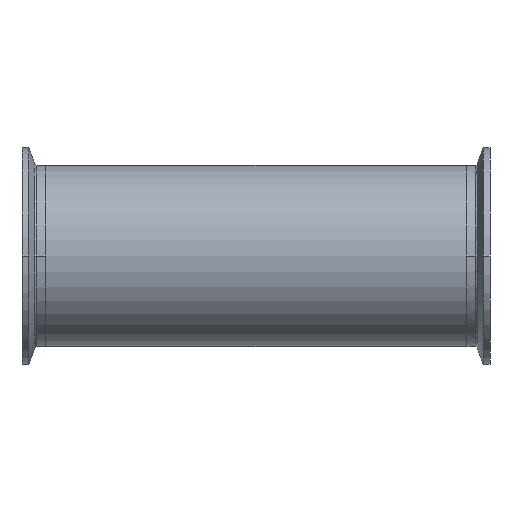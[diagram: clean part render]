
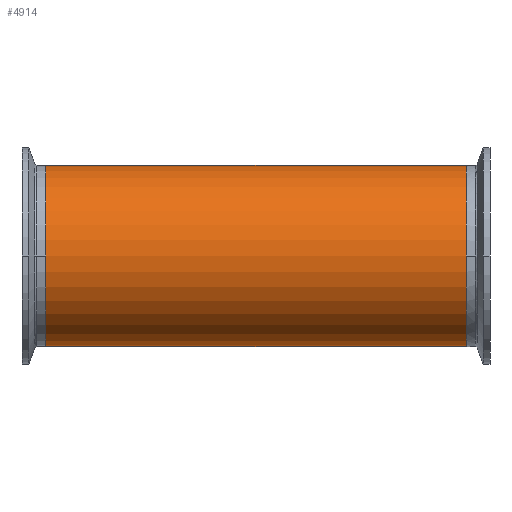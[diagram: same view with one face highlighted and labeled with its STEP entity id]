
A CAD part, front view. The second image highlights one B-rep face of the part: STEP entity #4914.
In plain terms, the highlighted cylindrical face has radius 38.1 mm (diameter 76.2 mm), a partial arc.
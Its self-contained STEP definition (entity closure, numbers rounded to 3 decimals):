
#19 = EDGE_CURVE ( 'NONE', #2973, #4014, #145, .T. ) ;
#145 = CIRCLE ( 'NONE', #4217, 38.1 ) ;
#216 = CARTESIAN_POINT ( 'NONE',  ( 196.163, 0., 38.1 ) ) ;
#456 = CARTESIAN_POINT ( 'NONE',  ( -88.4, 0., -38.1 ) ) ;
#480 = EDGE_CURVE ( 'NONE', #2679, #1978, #2338, .T. ) ;
#520 = CARTESIAN_POINT ( 'NONE',  ( 88.4, 0., 38.1 ) ) ;
#589 = EDGE_LOOP ( 'NONE', ( #3317, #4328, #1096, #1244 ) ) ;
#866 = AXIS2_PLACEMENT_3D ( 'NONE', #4466, #2199, #2968 ) ;
#978 = EDGE_CURVE ( 'NONE', #2679, #4014, #3749, .T. ) ;
#987 = CARTESIAN_POINT ( 'NONE',  ( 196.163, 0., -38.1 ) ) ;
#1096 = ORIENTED_EDGE ( 'NONE', *, *, #2971, .T. ) ;
#1114 = AXIS2_PLACEMENT_3D ( 'NONE', #4111, #4128, #4146 ) ;
#1244 = ORIENTED_EDGE ( 'NONE', *, *, #19, .T. ) ;
#1409 = DIRECTION ( 'NONE',  ( 0., 0., 1. ) ) ;
#1426 = DIRECTION ( 'NONE',  ( 1., 0., 0. ) ) ;
#1430 = CARTESIAN_POINT ( 'NONE',  ( -88.4, 0., 0. ) ) ;
#1621 = CARTESIAN_POINT ( 'NONE',  ( 88.4, 0., -38.1 ) ) ;
#1978 = VERTEX_POINT ( 'NONE', #520 ) ;
#2081 = FACE_OUTER_BOUND ( 'NONE', #589, .T. ) ;
#2199 = DIRECTION ( 'NONE',  ( -1., 0., 0. ) ) ;
#2338 = CIRCLE ( 'NONE', #1114, 38.1 ) ;
#2679 = VERTEX_POINT ( 'NONE', #1621 ) ;
#2727 = CYLINDRICAL_SURFACE ( 'NONE', #866, 38.1 ) ;
#2968 = DIRECTION ( 'NONE',  ( 0., 0., 1. ) ) ;
#2971 = EDGE_CURVE ( 'NONE', #1978, #2973, #3115, .T. ) ;
#2973 = VERTEX_POINT ( 'NONE', #3399 ) ;
#3115 = LINE ( 'NONE', #216, #4126 ) ;
#3317 = ORIENTED_EDGE ( 'NONE', *, *, #978, .F. ) ;
#3399 = CARTESIAN_POINT ( 'NONE',  ( -88.4, 0., 38.1 ) ) ;
#3643 = VECTOR ( 'NONE', #3784, 1000. ) ;
#3749 = LINE ( 'NONE', #987, #3643 ) ;
#3784 = DIRECTION ( 'NONE',  ( -1., 0., 0. ) ) ;
#4014 = VERTEX_POINT ( 'NONE', #456 ) ;
#4111 = CARTESIAN_POINT ( 'NONE',  ( 88.4, 0., 0. ) ) ;
#4126 = VECTOR ( 'NONE', #4876, 1000. ) ;
#4128 = DIRECTION ( 'NONE',  ( -1., 0., 0. ) ) ;
#4146 = DIRECTION ( 'NONE',  ( 0., 0., 1. ) ) ;
#4217 = AXIS2_PLACEMENT_3D ( 'NONE', #1430, #1426, #1409 ) ;
#4328 = ORIENTED_EDGE ( 'NONE', *, *, #480, .T. ) ;
#4466 = CARTESIAN_POINT ( 'NONE',  ( 196.163, 0., 0. ) ) ;
#4876 = DIRECTION ( 'NONE',  ( -1., 0., 0. ) ) ;
#4914 = ADVANCED_FACE ( 'NONE', ( #2081 ), #2727, .T. ) ;
